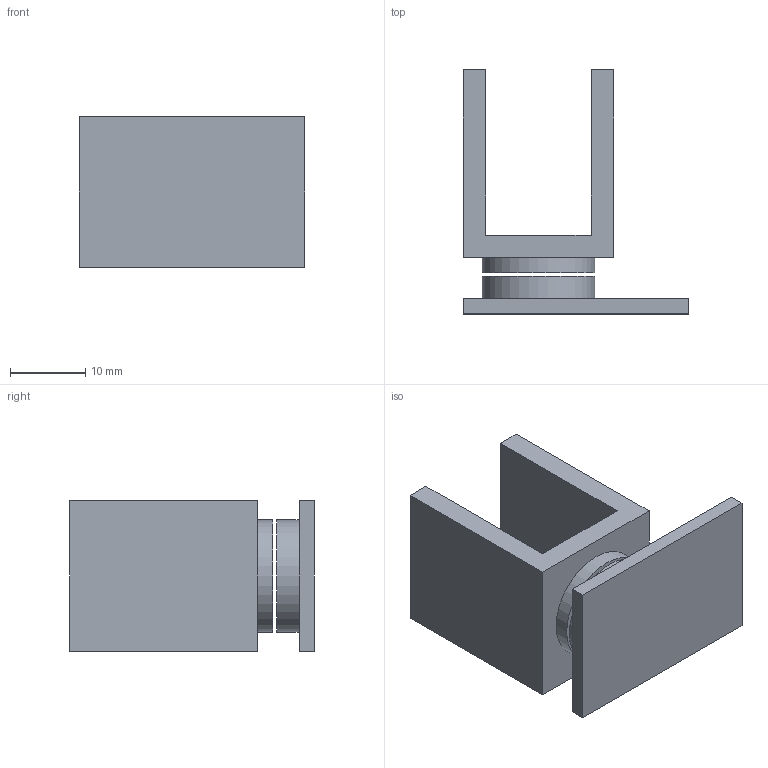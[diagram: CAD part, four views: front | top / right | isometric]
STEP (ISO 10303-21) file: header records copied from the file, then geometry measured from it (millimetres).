
FILE_DESCRIPTION( ( 'STEP Version 203' ), '1' );
FILE_NAME( ' ', '11/30/10 15:30:32', ( 'aho' ), ( ' ' ), 'PSStep 14.0', 'DesignModeler STEP Output', ' ' );
FILE_SCHEMA( ( 'AUTOMOTIVE_DESIGN { 1 0 10303 214 1 1 1 1 }' ) );
Length unit declared in the file: metre
Products named in the file (2): Arm; Base
Bounding box: 30 x 32.5 x 20 mm (x, y, z)
Volume: 5923.6 mm3; surface area: 4699.6 mm2
Topology: 2 solids, 2 shells, 20 faces, 43 edges, 29 vertices
Faces by surface type: plane 18, cylinder 2
Full cylindrical faces by diameter (mm): 15 x2
Entity records: 545 total; most frequent: CARTESIAN_POINT 90, DIRECTION 88, ORIENTED_EDGE 80, EDGE_CURVE 40, LINE 36, VECTOR 36, VERTEX_POINT 28, AXIS2_PLACEMENT_3D 26
